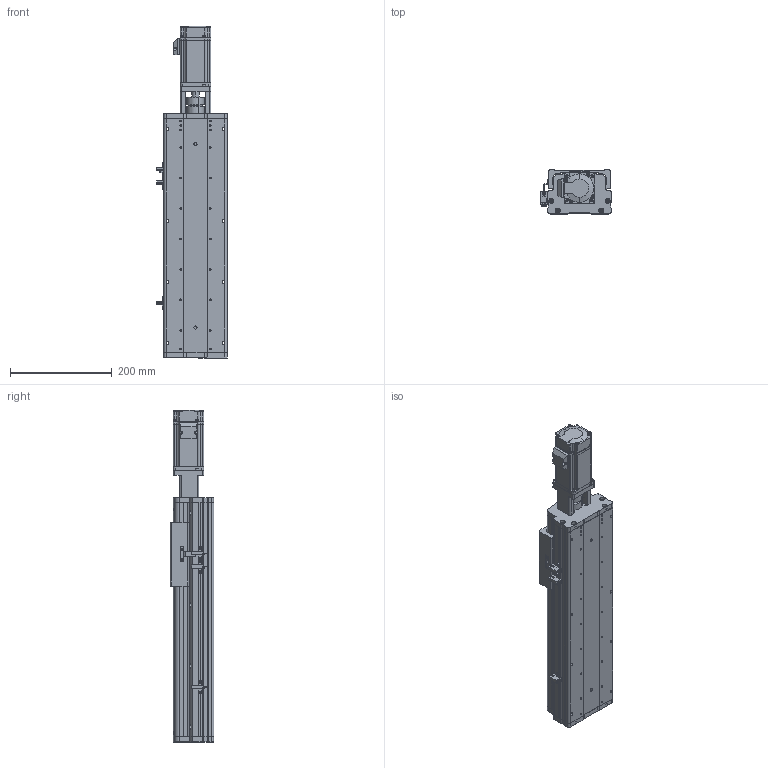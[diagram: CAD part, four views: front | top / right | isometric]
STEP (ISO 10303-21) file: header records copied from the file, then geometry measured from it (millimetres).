
FILE_DESCRIPTION (( 'STEP AP214' ), '1' );
FILE_NAME ('KSD125S-S250-MT-CM.STEP', '2017-08-07T06:36:54', ( '微软用户' ), ( '微软中国' ), 'SwSTEP 2.0', 'SolidWorks 2014', '' );
FILE_SCHEMA (( 'AUTOMOTIVE_DESIGN' ));
Length unit declared in the file: millimetre
Products named in the file (13): KSD125S-250俴最佪裝菁啣; MHMD042G1CA_2_03; 100遵鎮湛假蚾啣1 ; 拸萇儂釱滅袉菜; 覜茼え68遵圉猾敕; U倰嫖萇假蚾璃; U倰嫖萇EEㄜSX672; KSD125S-250俴最佪裝滅鳥裔; ヶ傷啣-125遵耀郪; KSD125-賑雄釱1; CS-34X32-10X14; 125-帣傷啣1; KSD125S-S250-MT-CM
Assembly tree (16 placements, depth 2):
  KSD125S-S250-MT-CM
    125-帣傷啣1
    CS-34X32-10X14
    KSD125-賑雄釱1
    ヶ傷啣-125遵耀郪
    U倰嫖萇EEㄜSX672  x3
    U倰嫖萇假蚾璃  x3
    覜茼え68遵圉猾敕
    拸萇儂釱滅袉菜
    100遵鎮湛假蚾啣1 
    MHMD042G1CA_2_03
    KSD125S-250俴最佪裝菁啣
    KSD125S-250俴最佪裝滅鳥裔
Bounding box: 138.7 x 86 x 653.5 mm (x, y, z)
Volume: 1905223.9 mm3; surface area: 645204.5 mm2
Topology: 15 solids, 18 shells, 1482 faces, 4268 edges, 2807 vertices
Faces by surface type: cylinder 734, plane 635, cone 91, bspline 22
Entity records: 51889 total; most frequent: CARTESIAN_POINT 10968, DIRECTION 7422, ORIENTED_EDGE 7044, EDGE_CURVE 3600, AXIS2_PLACEMENT_3D 2723, VERTEX_POINT 2399, LINE 1976, VECTOR 1976
